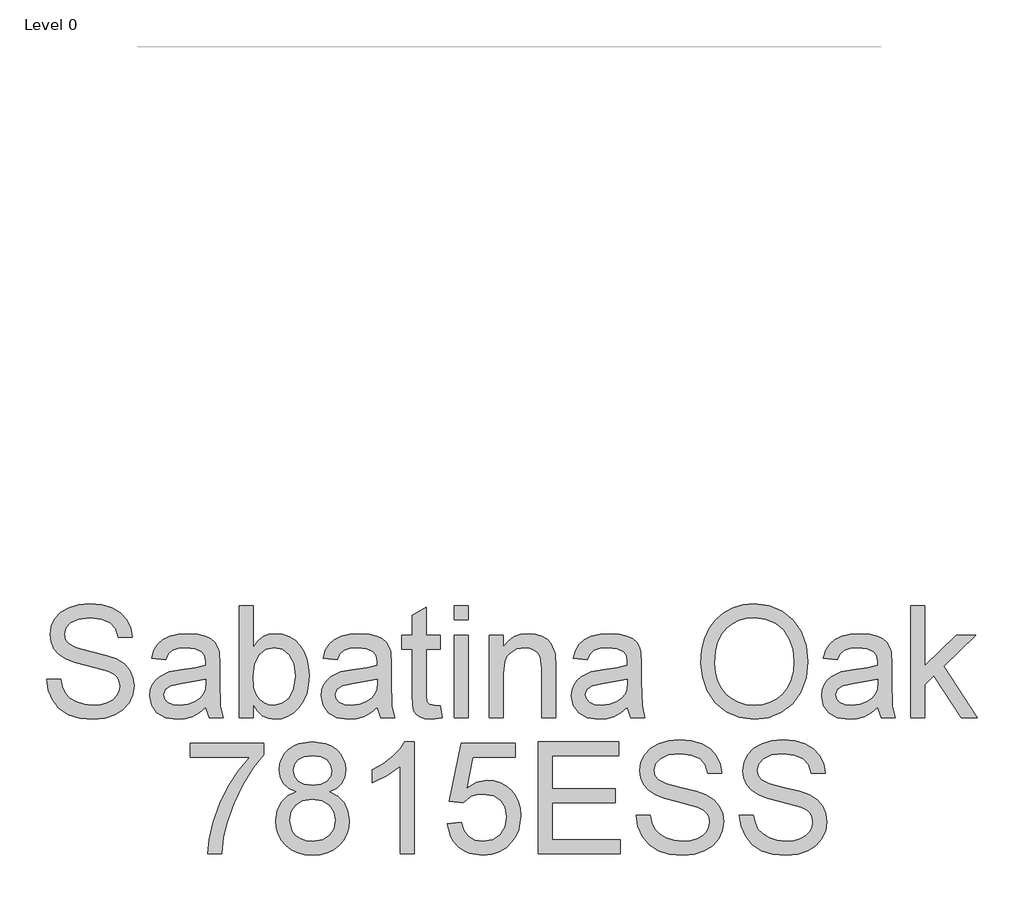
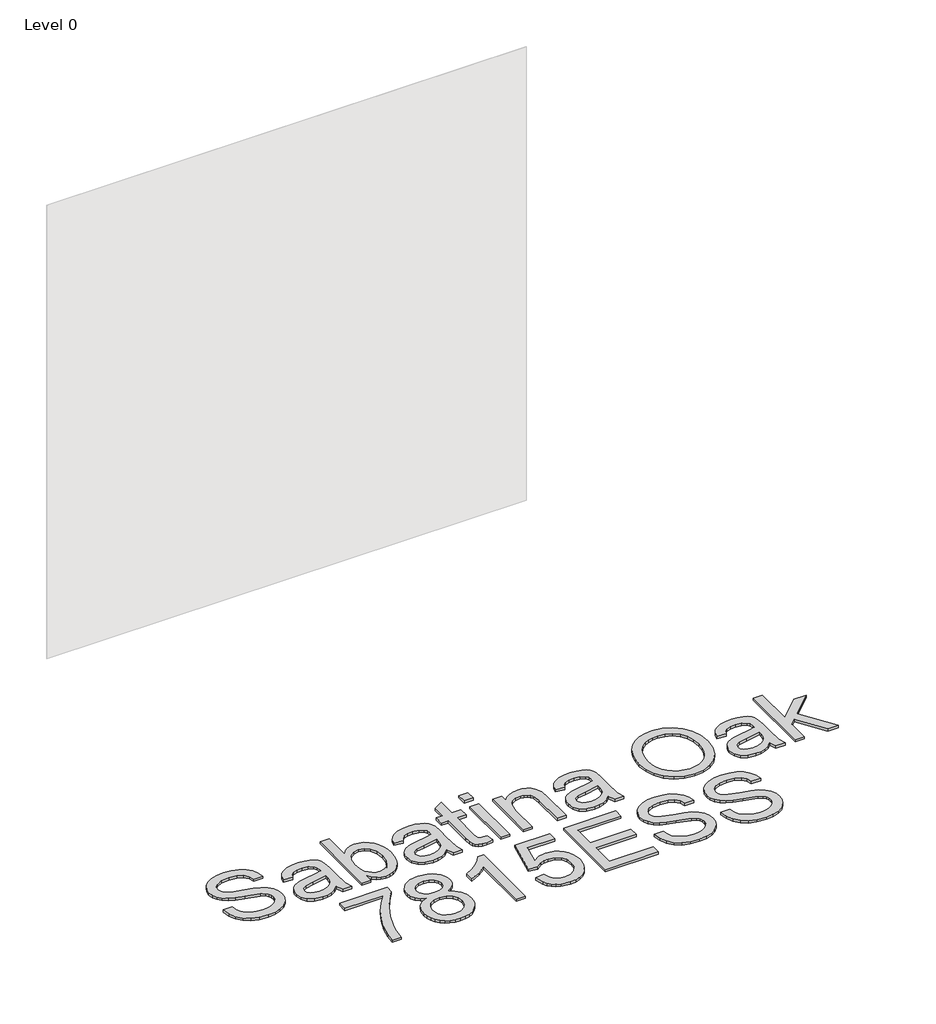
# One storey, part 33 of 43: 1 proxy.
"""IFC4 building model written with IfcOpenShell, lengths in millimetres."""

import ifcopenshell
import ifcopenshell.guid

model = None  # the IFC model being written
_history = None  # IfcOwnerHistory: only IFC2X3 demands one
_inside = {}  # id of a spatial element -> (the spatial element, [elements in it])
_under = {}  # id of a project, library or spatial element -> (it, [spatial elements below it])
_declared = {}  # id of a project -> (the project, [libraries it declares])
_typed = {}  # id of a type object -> (the type object, [elements of that type])
_made_of = {}  # id of a material, layer set ... -> (it, [elements and type objects made of it])


def new_model(schema):
    """Start an empty IFC model of exactly this schema.

    Asked for "IFC4X3", IfcOpenShell would pick the latest addendum, in which some entities
    have other attributes; the version numbers below select the first issue.
    IFC2X3 requires an IfcOwnerHistory on every rooted entity: one is made here for all.
    """
    global model, _history
    if schema == "IFC4X3":
        model = ifcopenshell.file(schema_version=(4, 3, 0, 0))
    else:
        model = ifcopenshell.file(schema=schema)
    _inside.clear()
    _under.clear()
    _declared.clear()
    _typed.clear()
    _made_of.clear()
    _history = None
    if model.schema == "IFC2X3":
        org = make("IfcOrganization", Name="unknown")
        user = make(
            "IfcPersonAndOrganization",
            ThePerson=make("IfcPerson", FamilyName="unknown"),
            TheOrganization=org,
        )
        app = make(
            "IfcApplication",
            ApplicationDeveloper=org,
            Version="unknown",
            ApplicationFullName="unknown",
            ApplicationIdentifier="unknown",
        )
        _history = make(
            "IfcOwnerHistory",
            OwningUser=user,
            OwningApplication=app,
            ChangeAction="ADDED",
            CreationDate=0,
        )
    return model


def make(cls, **values):
    """One entity of the class cls with the attributes given. An attribute that is None is left unset."""
    return model.create_entity(
        cls, **{name: value for name, value in values.items() if value is not None}
    )


def rooted(cls, **values):
    """An entity with a GlobalId (a new one), such as an element, a storey or a relation."""
    return make(cls, GlobalId=ifcopenshell.guid.new(), OwnerHistory=_history, **values)


def si_unit(unit_type, name, prefix=None):
    """IfcSIUnit, for example si_unit("LENGTHUNIT", "METRE", prefix="MILLI")."""
    return make("IfcSIUnit", UnitType=unit_type, Prefix=prefix, Name=name)


def assignment(units):
    """IfcUnitAssignment: the units of a project."""
    return None if units is None else make("IfcUnitAssignment", Units=units)


def point(xyz):
    """IfcCartesianPoint."""
    return None if xyz is None else make("IfcCartesianPoint", Coordinates=xyz)


def direction(xyz):
    """IfcDirection."""
    return None if xyz is None else make("IfcDirection", DirectionRatios=xyz)


def frame(location, z_axis=None, x_axis=None):
    """IfcAxis2Placement3D, a coordinate frame: its origin and axes. An axis left out is left unset."""
    return make(
        "IfcAxis2Placement3D",
        Location=point(location),
        Axis=direction(z_axis),
        RefDirection=direction(x_axis),
    )


def origin():
    """The frame at (0, 0, 0) with its axes left unset."""
    return frame((0.0, 0.0, 0.0))


def origin_with_axes():
    """The frame at (0, 0, 0) with the z axis (0, 0, 1) and the x axis (1, 0, 0) written out."""
    return frame((0.0, 0.0, 0.0), z_axis=(0.0, 0.0, 1.0), x_axis=(1.0, 0.0, 0.0))


def place(relative_to, where):
    """IfcLocalPlacement: puts the frame where relative to a parent placement (None: the world)."""
    return make(
        "IfcLocalPlacement", PlacementRelTo=relative_to, RelativePlacement=where
    )


def context(
    kind, dimensions, precision=None, world=None, true_north=None, identifier=None
):
    """IfcGeometricRepresentationContext, for example the 3D "Model" context."""
    return make(
        "IfcGeometricRepresentationContext",
        ContextIdentifier=identifier,
        ContextType=kind,
        CoordinateSpaceDimension=dimensions,
        Precision=precision,
        WorldCoordinateSystem=world,
        TrueNorth=true_north,
    )


def project(units=None, contexts=None):
    """IfcProject with its units and contexts."""
    return rooted(
        "IfcProject",
        Name="project",
        RepresentationContexts=contexts,
        UnitsInContext=assignment(units),
    )


def spatial(cls, under=None, at=None, **own):
    """A site, building, storey or space (cls), placed at a placement, below another one or the project."""
    s = rooted(cls, ObjectPlacement=at, **own)
    if under is not None:
        _under.setdefault(under.id(), (under, []))[1].append(s)
    return s


def polyline(points):
    """IfcPolyline through the points."""
    return make("IfcPolyline", Points=[point(p) for p in points])


def outline(outer, holes=None, kind="AREA"):
    """IfcArbitraryClosedProfileDef: a profile drawn as a closed curve; with holes, ...WithVoids."""
    if holes is None:
        return make("IfcArbitraryClosedProfileDef", ProfileType=kind, OuterCurve=outer)
    return make(
        "IfcArbitraryProfileDefWithVoids",
        ProfileType=kind,
        OuterCurve=outer,
        InnerCurves=holes,
    )


def extrude(swept, where, along, depth):
    """IfcExtrudedAreaSolid: the profile swept, set in the frame where, extruded along a direction by depth."""
    return make(
        "IfcExtrudedAreaSolid",
        SweptArea=swept,
        Position=where,
        ExtrudedDirection=direction(along),
        Depth=depth,
    )


def shape(context_of_items, identifier, shape_type, items):
    """IfcShapeRepresentation: the items that make up one representation, for example the "Body"."""
    return make(
        "IfcShapeRepresentation",
        ContextOfItems=context_of_items,
        RepresentationIdentifier=identifier,
        RepresentationType=shape_type,
        Items=items,
    )


def made_of(thing, what):
    """Note that an element or type object is made of a material, layer set ...; save() writes the relation."""
    if what is not None:
        _made_of.setdefault(what.id(), (what, []))[1].append(thing)
    return thing


def element(
    cls,
    number,
    at=None,
    inside=None,
    cuts=None,
    type_object=None,
    material=None,
    context=None,
    identifier="Body",
    shape_type=None,
    held_by="IfcProductDefinitionShape",
    body=None,
    shapes=None,
    **own,
):
    """One element of the class cls, such as IfcWall. Its Tag is "e" and its number.

    at: its placement. inside: the storey or other place that contains it. cuts: it is an
    opening in that element (IfcRelVoidsElement). A single representation is given by context,
    identifier, shape_type and body (its items); several are given by shapes. held_by: the class
    of the entity that holds the representations. save() writes the other relations.
    """
    e = rooted(cls, Tag="e%d" % number, ObjectPlacement=at, **own)
    if body is not None:
        shapes = [shape(context, identifier, shape_type, body)]
    if shapes is not None:
        e.Representation = make(held_by, Representations=shapes)
    if inside is not None:
        _inside.setdefault(inside.id(), (inside, []))[1].append(e)
    if cuts is not None:
        rooted(
            "IfcRelVoidsElement", RelatingBuildingElement=cuts, RelatedOpeningElement=e
        )
    if type_object is not None:
        _typed.setdefault(type_object.id(), (type_object, []))[1].append(e)
    return made_of(e, material)


def aggregate(whole, parts):
    """IfcRelAggregates: a whole, such as a stair, and the parts it consists of."""
    return rooted("IfcRelAggregates", RelatingObject=whole, RelatedObjects=parts)


def save(model, path):
    """Write the relations noted so far, then the file.

    IfcRelAggregates (storeys below a building ...), IfcRelContainedInSpatialStructure (elements
    in a storey), IfcRelDefinesByType, IfcRelAssociatesMaterial and IfcRelDeclares: one each for
    every whole, place, type object, material and project.
    """
    for whole, parts in _under.values():
        aggregate(whole, parts)
    for where, things in _inside.values():
        rooted(
            "IfcRelContainedInSpatialStructure",
            RelatedElements=things,
            RelatingStructure=where,
        )
    for kind, things in _typed.values():
        rooted("IfcRelDefinesByType", RelatedObjects=things, RelatingType=kind)
    for what, things in _made_of.values():
        rooted("IfcRelAssociatesMaterial", RelatedObjects=things, RelatingMaterial=what)
    for by, libraries in _declared.values():
        rooted("IfcRelDeclares", RelatingContext=by, RelatedDefinitions=libraries)
    model.write(path)


model = new_model("IFC4")

# Units and contexts
model_context = context("Model", 3, world=origin())
ifc_project = project(units=[si_unit("LENGTHUNIT", "METRE", prefix="MILLI")], contexts=[model_context])

# Site, building, storey
site = spatial("IfcSite", under=ifc_project)
building = spatial("IfcBuilding", under=site)
storey = spatial("IfcBuildingStorey", under=building, Name="Level 0", Elevation=0.0)

# Proxy
placement = place(None, origin())
element("IfcBuildingElementProxy", 1, Name="300mm Arial", ObjectType="300mm Arial", at=placement, inside=storey, context=model_context, shape_type="SweptSolid", body=[
    extrude(outline(polyline([(16303.8406608, -11898.2649241), (16341.5117771, -11898.2649241), (16345.8343906, -11919.1698185), (16353.651883, -11935.9728286), (16365.8471711, -11949.308551), (16383.3031718, -11959.8115819), (16404.6403275, -11966.6265959), (16428.4790808, -11968.8982672), (16449.4667486, -11967.1784189), (16467.8424543, -11962.0188739), (16482.732478, -11953.8518936), (16493.2631001, -11943.1097394), (16499.5262911, -11930.7764955), (16501.6140214, -11917.8362463), (16500.0505229, -11905.2270909), (16495.3600275, -11894.3285868), (16485.8318838, -11885.0303694), (16469.7554406, -11877.222074), (16414.9042352, -11862.837888), (16378.8977849, -11853.3189414), (16355.8591749, -11844.2598472), (16337.1063902, -11831.5863125), (16323.8166532, -11816.2272392), (16315.8979932, -11798.5137211), (16313.2584399, -11778.7768521), (16316.5233926, -11756.7131294), (16326.3182507, -11736.1393289), (16342.3854969, -11718.7017223), (16364.4676136, -11706.0465817), (16390.9735114, -11698.3486509), (16420.3121005, -11695.782674), (16452.0971049, -11698.4682126), (16479.9089837, -11706.5248283), (16502.7544556, -11719.7869742), (16519.6402392, -11738.0891034), (16530.3272112, -11760.2907818), (16534.5762482, -11785.2515752), (16496.9051319, -11785.2515752), (16489.9889504, -11762.7739853), (16475.5679762, -11746.5503893), (16453.035204, -11736.7279401), (16421.7836285, -11733.4537903), (16389.796289, -11736.6911519), (16367.852128, -11746.4032365), (16355.1601991, -11760.695452), (16350.9295562, -11777.6732061), (16353.9277945, -11792.1493626), (16362.9225092, -11803.7928278), (16384.1860886, -11814.2038882), (16424.4323788, -11824.8356779), (16465.9662561, -11834.9340387), (16491.0925964, -11843.7448125), (16512.5677078, -11857.4116286), (16527.5497021, -11874.2790181), (16536.3512788, -11894.1630399), (16539.2851377, -11916.8797531), (16535.9098204, -11940.102304), (16525.7838685, -11961.9452975), (16509.3211492, -11980.7440675), (16486.9355298, -11994.8339479), (16460.0157648, -12003.6355246), (16429.9506088, -12006.5693835), (16393.0428476, -12003.4055984), (16362.6649919, -11993.9142429), (16338.4675536, -11978.0585289), (16320.101045, -11955.8016682), (16308.3104271, -11928.6887651), (16303.8406608, -11898.2649241)])), origin_with_axes(), (0.0, 0.0, 1.0), 10.0),
    extrude(outline(polyline([(16732.3496088, -11973.6071568), (16714.3509822, -11989.0398064), (16695.8189267, -11999.1381672), (16676.330378, -12004.7115794), (16655.4622718, -12006.5693835), (16623.9807701, -12002.0996173), (16600.7582191, -11988.6903186), (16586.4384125, -11968.3280501), (16581.6651436, -11942.9993748), (16583.4677654, -11927.3827841), (16588.8756307, -11913.2009331), (16597.2173549, -11901.0608273), (16607.8215534, -11891.5694718), (16634.1986925, -11879.2086368), (16666.7930373, -11873.5432541), (16705.3102822, -11867.5835657), (16732.1288796, -11860.5938078), (16732.3496088, -11852.2060983), (16729.7560407, -11835.3938912), (16721.9753365, -11824.3942195), (16704.5745182, -11816.2272392), (16680.3310947, -11813.5049125), (16657.890293, -11815.3167313), (16642.21852, -11820.7521878), (16631.531548, -11830.8045633), (16624.0451494, -11846.4671392), (16586.3740331, -11841.7582497), (16592.9131356, -11821.156858), (16602.6712055, -11804.9700502), (16616.5587508, -11792.590821), (16635.4862795, -11783.4121652), (16658.635254, -11777.7283884), (16685.187137, -11775.8337961), (16710.6537681, -11777.5076592), (16730.8412926, -11782.5292485), (16746.0624102, -11790.0800264), (16756.6298205, -11799.3414556), (16763.6379725, -11810.7917827), (16768.1813151, -11824.9092543), (16770.0207251, -11857.8714811), (16770.0207251, -11904.7396473), (16771.9337115, -11970.1858542), (16779.4385042, -12001.860494), (16741.7673879, -12001.860494), (16732.3496088, -11973.6071568)]), holes=[polyline([(16732.3496088, -11898.2649241), (16671.5755032, -11909.8164188), (16639.1650994, -11915.9232599), (16624.4866078, -11925.8560738), (16619.3362599, -11940.3506244), (16622.1413601, -11951.5526311), (16630.5566607, -11960.7312869), (16644.3982208, -11966.8565221), (16663.4820993, -11968.8982672), (16683.715609, -11966.64499), (16701.594674, -11959.8851583), (16716.0892246, -11949.9247533), (16726.1691913, -11938.069756), (16730.6389575, -11925.8560738), (16732.1288796, -11908.933502), (16732.3496088, -11898.2649241)])]), origin_with_axes(), (0.0, 0.0, 1.0), 10.0),
    extrude(outline(polyline([(16859.4896263, -12001.860494), (16821.81851, -12001.860494), (16821.81851, -11700.4915635), (16859.4896263, -11700.4915635), (16859.4896263, -11812.2541137), (16871.8780525, -11796.3202248), (16885.8667654, -11784.9388755), (16901.4557649, -11778.110066), (16918.6450512, -11775.8337961), (16938.0508264, -11777.8847383), (16956.3897439, -11784.0375646), (16972.6133399, -11793.9059992), (16985.6731507, -11807.1037657), (16995.9094672, -11823.5021057), (17003.6625802, -11842.9722603), (17008.5462137, -11864.7048891), (17010.1740916, -11887.8906519), (17008.4887322, -11914.64487), (17003.432654, -11938.1801206), (16995.005857, -11958.4964038), (16983.2083413, -11975.5937195), (16969.0471838, -11989.1455725), (16953.5294614, -11998.8254675), (16936.6551741, -12004.6334045), (16918.424322, -12006.5693835), (16900.6694172, -12004.0723845), (16884.9286663, -11996.5813874), (16871.2020694, -11984.0963921), (16859.4896263, -11966.6173988), (16859.4896263, -12001.860494)]), holes=[polyline([(16859.4896263, -11889.6564855), (16862.0648003, -11921.0736078), (16869.7903222, -11942.3371872), (16878.9183942, -11953.9576597), (16889.5271912, -11962.2579972), (16901.6167133, -11967.2381997), (16915.1869604, -11968.8982672), (16936.9287863, -11964.0054367), (16955.5068271, -11949.3269451), (16968.2539382, -11924.9547629), (16972.5029753, -11890.9808606), (16968.4286822, -11856.5103177), (16956.2058029, -11832.414047), (16938.2071763, -11818.2321961), (16916.8056412, -11813.5049125), (16895.0638153, -11818.397743), (16876.4857745, -11833.0762346), (16863.7386634, -11857.0069584), (16859.4896263, -11889.6564855)])]), origin_with_axes(), (0.0, 0.0, 1.0), 10.0),
    extrude(outline(polyline([(17193.8207836, -11973.6071568), (17175.8221569, -11989.0398064), (17157.2901014, -11999.1381672), (17137.8015527, -12004.7115794), (17116.9334466, -12006.5693835), (17085.4519448, -12002.0996173), (17062.2293939, -11988.6903186), (17047.9095872, -11968.3280501), (17043.1363183, -11942.9993748), (17044.9389401, -11927.3827841), (17050.3468054, -11913.2009331), (17058.6885297, -11901.0608273), (17069.2927282, -11891.5694718), (17095.6698672, -11879.2086368), (17128.264212, -11873.5432541), (17166.7814569, -11867.5835657), (17193.6000544, -11860.5938078), (17193.8207836, -11852.2060983), (17191.2272155, -11835.3938912), (17183.4465113, -11824.3942195), (17166.0456929, -11816.2272392), (17141.8022694, -11813.5049125), (17119.3614677, -11815.3167313), (17103.6896947, -11820.7521878), (17093.0027228, -11830.8045633), (17085.5163242, -11846.4671392), (17047.8452079, -11841.7582497), (17054.3843103, -11821.156858), (17064.1423803, -11804.9700502), (17078.0299256, -11792.590821), (17096.9574542, -11783.4121652), (17120.1064288, -11777.7283884), (17146.6583118, -11775.8337961), (17172.1249429, -11777.5076592), (17192.3124674, -11782.5292485), (17207.5335849, -11790.0800264), (17218.1009952, -11799.3414556), (17225.1091472, -11810.7917827), (17229.6524899, -11824.9092543), (17231.4918999, -11857.8714811), (17231.4918999, -11904.7396473), (17233.4048862, -11970.1858542), (17240.9096789, -12001.860494), (17203.2385626, -12001.860494), (17193.8207836, -11973.6071568)]), holes=[polyline([(17193.8207836, -11898.2649241), (17133.046678, -11909.8164188), (17100.6362742, -11915.9232599), (17085.9577826, -11925.8560738), (17080.8074346, -11940.3506244), (17083.6125348, -11951.5526311), (17092.0278355, -11960.7312869), (17105.8693956, -11966.8565221), (17124.9532741, -11968.8982672), (17145.1867838, -11966.64499), (17163.0658488, -11959.8851583), (17177.5603994, -11949.9247533), (17187.640366, -11938.069756), (17192.1101323, -11925.8560738), (17193.6000544, -11908.933502), (17193.8207836, -11898.2649241)])]), origin_with_axes(), (0.0, 0.0, 1.0), 10.0),
    extrude(outline(polyline([(17363.3408069, -11970.4433716), (17368.0496965, -12002.96414), (17339.8699356, -12006.5693835), (17321.7885356, -12005.005885), (17308.3056605, -12000.3153896), (17298.7775168, -11993.0865084), (17292.5603111, -11983.9078526), (17289.1390085, -11968.1441091), (17287.9985743, -11941.1599648), (17287.9985743, -11818.213802), (17259.7452371, -11818.213802), (17259.7452371, -11780.5426857), (17287.9985743, -11780.5426857), (17287.9985743, -11726.758338), (17325.6696906, -11704.6118419), (17325.6696906, -11780.5426857), (17363.3408069, -11780.5426857), (17363.3408069, -11818.213802), (17325.6696906, -11818.213802), (17325.6696906, -11940.0563188), (17327.6562534, -11959.4804881), (17334.0941883, -11966.3598814), (17346.9332699, -11968.8982672), (17363.3408069, -11970.4433716)])), origin_with_axes(), (0.0, 0.0, 1.0), 10.0),
    extrude(outline(polyline([(17401.0119232, -11738.1626798), (17401.0119232, -11700.4915635), (17438.6830395, -11700.4915635), (17438.6830395, -11738.1626798), (17401.0119232, -11738.1626798)])), origin_with_axes(), (0.0, 0.0, 1.0), 10.0),
    extrude(outline(polyline([(17401.0119232, -12001.860494), (17401.0119232, -11780.5426857), (17438.6830395, -11780.5426857), (17438.6830395, -12001.860494), (17401.0119232, -12001.860494)])), origin_with_axes(), (0.0, 0.0, 1.0), 10.0),
    extrude(outline(polyline([(17495.189714, -12001.860494), (17495.189714, -11780.5426857), (17532.8608303, -11780.5426857), (17532.8608303, -11811.4447733), (17545.9482323, -11795.8649708), (17561.6659905, -11784.7365404), (17580.014105, -11778.0594822), (17600.9925758, -11775.8337961), (17619.5614195, -11777.6272209), (17636.5667647, -11783.0074951), (17650.7486157, -11791.303234), (17660.8469764, -11801.8430532), (17672.1409537, -11829.5445674), (17674.1275165, -11865.964885), (17674.1275165, -12001.860494), (17636.4564002, -12001.860494), (17636.4564002, -11871.0416565), (17632.1153926, -11837.7115477), (17626.109719, -11827.7879309), (17616.7747134, -11820.0900002), (17604.8093515, -11815.1511844), (17590.9126091, -11813.5049125), (17568.8488865, -11817.2021265), (17550.0409195, -11828.2937687), (17542.5246305, -11837.3482643), (17537.1558526, -11849.7228949), (17532.8608303, -11884.4325611), (17532.8608303, -12001.860494), (17495.189714, -12001.860494)])), origin_with_axes(), (0.0, 0.0, 1.0), 10.0),
    extrude(outline(polyline([(17867.1919875, -11973.6071568), (17849.1933609, -11989.0398064), (17830.6613054, -11999.1381672), (17811.1727567, -12004.7115794), (17790.3046505, -12006.5693835), (17758.8231488, -12002.0996173), (17735.6005979, -11988.6903186), (17721.2807912, -11968.3280501), (17716.5075223, -11942.9993748), (17718.3101441, -11927.3827841), (17723.7180094, -11913.2009331), (17732.0597336, -11901.0608273), (17742.6639322, -11891.5694718), (17769.0410712, -11879.2086368), (17801.635416, -11873.5432541), (17840.1526609, -11867.5835657), (17866.9712583, -11860.5938078), (17867.1919875, -11852.2060983), (17864.5984195, -11835.3938912), (17856.8177153, -11824.3942195), (17839.4168969, -11816.2272392), (17815.1734734, -11813.5049125), (17792.7326717, -11815.3167313), (17777.0608987, -11820.7521878), (17766.3739267, -11830.8045633), (17758.8875281, -11846.4671392), (17721.2164118, -11841.7582497), (17727.7555143, -11821.156858), (17737.5135842, -11804.9700502), (17751.4011295, -11792.590821), (17770.3286582, -11783.4121652), (17793.4776327, -11777.7283884), (17820.0295157, -11775.8337961), (17845.4961469, -11777.5076592), (17865.6836713, -11782.5292485), (17880.9047889, -11790.0800264), (17891.4721992, -11799.3414556), (17898.4803512, -11810.7917827), (17903.0236939, -11824.9092543), (17904.8631038, -11857.8714811), (17904.8631038, -11904.7396473), (17906.7760902, -11970.1858542), (17914.2808829, -12001.860494), (17876.6097666, -12001.860494), (17867.1919875, -11973.6071568)]), holes=[polyline([(17867.1919875, -11898.2649241), (17806.4178819, -11909.8164188), (17774.0074781, -11915.9232599), (17759.3289865, -11925.8560738), (17754.1786386, -11940.3506244), (17756.9837388, -11951.5526311), (17765.3990395, -11960.7312869), (17779.2405995, -11966.8565221), (17798.324478, -11968.8982672), (17818.5579878, -11966.64499), (17836.4370527, -11959.8851583), (17850.9316033, -11949.9247533), (17861.01157, -11938.069756), (17865.4813362, -11925.8560738), (17866.9712583, -11908.933502), (17867.1919875, -11898.2649241)])]), origin_with_axes(), (0.0, 0.0, 1.0), 10.0),
    extrude(outline(polyline([(18064.9653481, -11855.1491543), (18067.4761427, -11819.8002931), (18075.0085266, -11788.5073309), (18087.5624997, -11761.2702677), (18105.138062, -11738.0891034), (18126.6821513, -11719.5800406), (18151.1417055, -11706.3592814), (18178.5167245, -11698.4268258), (18208.8072082, -11695.782674), (18248.3361286, -11700.7490809), (18283.7815589, -11715.6483017), (18313.2121185, -11739.4318727), (18334.696427, -11771.0513302), (18347.8298142, -11808.9799639), (18352.20761, -11851.6910636), (18347.599888, -11894.9723803), (18333.776722, -11933.4344429), (18311.5014672, -11965.1090827), (18281.5374787, -11988.028131), (18246.3955511, -12001.9340704), (18208.586479, -12006.5693835), (18168.4505534, -12001.4466267), (18132.802788, -11986.0783564), (18103.4458048, -11961.853327), (18082.1822255, -11930.1602931), (18069.2695675, -11893.6939903), (18064.9653481, -11855.1491543)]), holes=[polyline([(18102.6364644, -11855.5170363), (18104.5195604, -11880.4916252), (18110.1688483, -11902.661114), (18119.5843281, -11922.0255025), (18132.7659998, -11938.5847908), (18148.78956, -11951.8469367), (18166.730705, -11961.3198981), (18186.589435, -11967.0036749), (18208.3657499, -11968.8982672), (18230.5145452, -11966.9852808), (18250.6077999, -11961.2463217), (18268.645514, -11951.6813898), (18284.6276875, -11938.2904852), (18297.7127902, -11921.381709), (18307.0592921, -11901.2631624), (18312.6671933, -11877.9348454), (18314.5364937, -11851.396758), (18311.3359203, -11818.0482551), (18301.7342002, -11789.2247008), (18285.9796538, -11765.6526619), (18264.3206013, -11748.0587055), (18238.1917826, -11737.1050191), (18209.0279374, -11733.4537903), (18188.0080799, -11735.2127261), (18168.5057357, -11740.4895335), (18150.5209046, -11749.2842124), (18134.0535868, -11761.5967629), (18120.3085958, -11778.0203948), (18110.490745, -11799.1483176), (18104.6000346, -11824.9805314), (18102.6364644, -11855.5170363)])]), origin_with_axes(), (0.0, 0.0, 1.0), 10.0),
    extrude(outline(polyline([(18540.5631915, -11973.6071568), (18522.5645649, -11989.0398064), (18504.0325094, -11999.1381672), (18484.5439607, -12004.7115794), (18463.6758545, -12006.5693835), (18432.1943528, -12002.0996173), (18408.9718018, -11988.6903186), (18394.6519952, -11968.3280501), (18389.8787263, -11942.9993748), (18391.681348, -11927.3827841), (18397.0892134, -11913.2009331), (18405.4309376, -11901.0608273), (18416.0351361, -11891.5694718), (18442.4122752, -11879.2086368), (18475.00662, -11873.5432541), (18513.5238649, -11867.5835657), (18540.3424623, -11860.5938078), (18540.5631915, -11852.2060983), (18537.9696234, -11835.3938912), (18530.1889192, -11824.3942195), (18512.7881009, -11816.2272392), (18488.5446774, -11813.5049125), (18466.1038757, -11815.3167313), (18450.4321027, -11820.7521878), (18439.7451307, -11830.8045633), (18432.2587321, -11846.4671392), (18394.5876158, -11841.7582497), (18401.1267183, -11821.156858), (18410.8847882, -11804.9700502), (18424.7723335, -11792.590821), (18443.6998622, -11783.4121652), (18466.8488367, -11777.7283884), (18493.4007197, -11775.8337961), (18518.8673508, -11777.5076592), (18539.0548753, -11782.5292485), (18554.2759929, -11790.0800264), (18564.8434032, -11799.3414556), (18571.8515552, -11810.7917827), (18576.3948978, -11824.9092543), (18578.2343078, -11857.8714811), (18578.2343078, -11904.7396473), (18580.1472942, -11970.1858542), (18587.6520869, -12001.860494), (18549.9809706, -12001.860494), (18540.5631915, -11973.6071568)]), holes=[polyline([(18540.5631915, -11898.2649241), (18479.7890859, -11909.8164188), (18447.3786821, -11915.9232599), (18432.7001905, -11925.8560738), (18427.5498426, -11940.3506244), (18430.3549428, -11951.5526311), (18438.7702434, -11960.7312869), (18452.6118035, -11966.8565221), (18471.695682, -11968.8982672), (18491.9291917, -11966.64499), (18509.8082567, -11959.8851583), (18524.3028073, -11949.9247533), (18534.382774, -11938.069756), (18538.8525402, -11925.8560738), (18540.3424623, -11908.933502), (18540.5631915, -11898.2649241)])]), origin_with_axes(), (0.0, 0.0, 1.0), 10.0),
    extrude(outline(polyline([(18630.0320927, -12001.860494), (18630.0320927, -11700.4915635), (18667.703209, -11700.4915635), (18667.703209, -11862.4332178), (18752.1689151, -11780.5426857), (18804.2610056, -11780.5426857), (18718.76523, -11863.4632874), (18808.9698952, -12001.860494), (18764.9712086, -12001.860494), (18691.7626915, -11889.6564855), (18667.703209, -11912.9802039), (18667.703209, -12001.860494), (18630.0320927, -12001.860494)])), origin_with_axes(), (0.0, 0.0, 1.0), 10.0),
    extrude(outline(polyline([(16689.969603, -12108.7960229), (16689.969603, -12071.1249066), (16887.7429636, -12071.1249066), (16887.7429636, -12101.5855358), (16859.5540057, -12137.2608923), (16831.6409593, -12182.6299393), (16807.0204568, -12233.5540045), (16788.7091305, -12285.8944154), (16779.7328098, -12325.0554538), (16774.7296146, -12367.7849475), (16737.0584983, -12367.7849475), (16741.1327914, -12328.9550029), (16752.0312955, -12282.8042066), (16769.4597051, -12233.8850983), (16793.1237144, -12186.7502177), (16820.7516522, -12144.1402856), (16850.0718473, -12108.7960229), (16689.969603, -12108.7960229)])), origin_with_axes(), (0.0, 0.0, 1.0), 10.0),
    extrude(outline(polyline([(16975.593184, -12201.7965913), (16955.4240536, -12191.8637774), (16941.2697939, -12178.3992964), (16932.9096755, -12161.6790597), (16930.1229694, -12141.9789789), (16931.6404826, -12126.6153071), (16936.1930223, -12112.5300252), (16943.7805885, -12099.7231332), (16954.4031811, -12088.1946312), (16967.5503639, -12078.6664875), (16982.7117006, -12071.8606706), (17019.0768358, -12066.4160171), (17055.6627003, -12071.9894293), (17070.9895839, -12078.9561946), (17084.3391018, -12088.709666), (17095.1548324, -12100.4634957), (17102.8803543, -12113.4313361), (17107.5156675, -12127.613187), (17109.0607719, -12143.0090485), (17106.310854, -12162.0745329), (17098.0611002, -12178.509661), (17084.2195401, -12191.8913686), (17064.6942032, -12201.7965913), (17087.879966, -12213.7435591), (17104.7565525, -12231.3375155), (17115.0480513, -12253.732332), (17118.4785509, -12280.0818799), (17116.7770967, -12298.8714528), (17111.672734, -12316.0975272), (17103.1654629, -12331.7601031), (17091.2552833, -12345.8591806), (17076.5675946, -12357.5118428), (17059.7277963, -12365.8351729), (17040.7358883, -12370.829171), (17019.5918706, -12372.4938371), (16998.447853, -12370.8222732), (16979.455945, -12365.8075818), (16962.6161466, -12357.4497627), (16947.928458, -12345.748816), (16936.0182784, -12331.5508703), (16927.5110072, -12315.7020541), (16922.4066446, -12298.2023674), (16920.7051903, -12279.0518103), (16924.2736457, -12251.6813898), (16934.9790117, -12229.1670117), (16952.2694655, -12212.2812282), (16975.593184, -12201.7965913)]), holes=[polyline([(16967.7940857, -12143.0826249), (16971.1326148, -12159.52695), (16981.1482021, -12172.6603373), (16997.5465421, -12181.268776), (17020.033329, -12184.1382555), (17041.9958841, -12181.2871701), (17058.1459037, -12172.7339137), (17068.0787176, -12160.0419848), (17071.3896556, -12144.774882), (17067.968353, -12128.9283651), (17057.7044453, -12115.822569), (17041.3336966, -12107.0209923), (17019.5918706, -12104.0871334), (16997.712089, -12106.9566129), (16981.3689313, -12115.5650516), (16971.1877971, -12128.1834041), (16967.7940857, -12143.0826249)]), polyline([(16958.3763066, -12277.7274351), (16964.6670888, -12306.0911369), (16973.376695, -12318.2588339), (16986.9239495, -12327.317928), (17003.1475455, -12332.9465226), (17019.8861762, -12334.8227207), (17045.5275513, -12330.8771864), (17064.7677796, -12319.0405832), (17076.7975209, -12301.1155329), (17080.8074346, -12278.9046575), (17076.6687622, -12256.316703), (17064.2527449, -12237.9961796), (17044.5710581, -12225.8560738), (17018.6353775, -12221.8093718), (16993.3526873, -12225.8008915), (16974.305597, -12237.7754504), (16962.3586292, -12255.7464859), (16958.3763066, -12277.7274351)])]), origin_with_axes(), (0.0, 0.0, 1.0), 10.0),
    extrude(outline(polyline([(17292.7074639, -12367.7849475), (17255.0363476, -12367.7849475), (17255.0363476, -12132.9290818), (17219.351794, -12158.3497277), (17179.6941149, -12177.3692268), (17179.6941149, -12141.7582497), (17209.2810244, -12125.6634124), (17234.9132024, -12106.5151545), (17255.119121, -12086.1528861), (17268.4272522, -12066.4160171), (17292.7074639, -12066.4160171), (17292.7074639, -12367.7849475)])), origin_with_axes(), (0.0, 0.0, 1.0), 10.0),
    extrude(outline(polyline([(17382.1763651, -12287.7338254), (17419.8474814, -12283.0249358), (17426.7636629, -12305.6404815), (17438.8301923, -12321.8364863), (17455.9918874, -12331.5761621), (17478.1935658, -12334.8227207), (17505.1961043, -12330.3069693), (17525.429614, -12316.7597148), (17538.0663605, -12295.7444558), (17542.2786094, -12268.8246908), (17538.333075, -12243.4776213), (17526.4964718, -12224.0902402), (17506.6768293, -12211.7845875), (17478.782177, -12207.6827032), (17460.5076389, -12209.3197781), (17445.7095857, -12214.2310027), (17424.5563709, -12231.2271509), (17386.8852546, -12226.5182614), (17419.8474814, -12071.1249066), (17565.8230571, -12071.1249066), (17565.8230571, -12108.7960229), (17450.3081106, -12108.7960229), (17434.1948792, -12191.790201), (17461.1054471, -12175.4562404), (17489.3036021, -12170.0115869), (17507.6494173, -12171.6992456), (17524.500712, -12176.7622215), (17539.857486, -12185.2005148), (17553.7197394, -12197.0141254), (17565.1953584, -12211.4810848), (17573.3922291, -12227.8794248), (17578.3103516, -12246.2091452), (17579.9497257, -12266.470246), (17574.0452197, -12304.1413624), (17566.6645871, -12320.9351754), (17556.3317016, -12336.3678251), (17540.6783227, -12352.1729553), (17522.4129816, -12363.4623341), (17501.5356784, -12370.2359613), (17478.046413, -12372.4938371), (17441.0466814, -12366.6904986), (17425.3680106, -12359.4363255), (17411.5701365, -12349.2804832), (17400.089919, -12336.7288093), (17391.3642179, -12322.2871418), (17382.1763651, -12287.7338254)])), origin_with_axes(), (0.0, 0.0, 1.0), 10.0),
    extrude(outline(polyline([(17627.0386211, -12367.7849475), (17627.0386211, -12066.4160171), (17843.6475398, -12066.4160171), (17843.6475398, -12104.0871334), (17664.7097374, -12104.0871334), (17664.7097374, -12193.5560346), (17834.2297608, -12193.5560346), (17834.2297608, -12231.2271509), (17664.7097374, -12231.2271509), (17664.7097374, -12330.1138312), (17848.3564294, -12330.1138312), (17848.3564294, -12367.7849475), (17627.0386211, -12367.7849475)])), origin_with_axes(), (0.0, 0.0, 1.0), 10.0),
    extrude(outline(polyline([(17890.7364352, -12264.1893777), (17928.4075515, -12264.1893777), (17932.730165, -12285.0942721), (17940.5476574, -12301.8972822), (17952.7429455, -12315.2330045), (17970.1989462, -12325.7360355), (17991.5361019, -12332.5510494), (18015.3748552, -12334.8227207), (18036.362523, -12333.1028724), (18054.7382287, -12327.9433274), (18069.6282524, -12319.7763471), (18080.1588745, -12309.0341929), (18086.4220655, -12296.700949), (18088.5097958, -12283.7606998), (18086.9462973, -12271.1515444), (18082.2558019, -12260.2530403), (18072.7276582, -12250.9548229), (18056.651215, -12243.1465276), (18001.8000096, -12228.7623415), (17965.7935593, -12219.2433949), (17942.7549493, -12210.1843008), (17924.0021646, -12197.510766), (17910.7124276, -12182.1516928), (17902.7937676, -12164.4381747), (17900.1542143, -12144.7013056), (17903.419167, -12122.637583), (17913.2140251, -12102.0637824), (17929.2812713, -12084.6261758), (17951.363388, -12071.9710352), (17977.8692858, -12064.2731044), (18007.2078749, -12061.7071275), (18038.9928793, -12064.3926661), (18066.8047581, -12072.4492818), (18089.65023, -12085.7114277), (18106.5360136, -12104.013557), (18117.2229855, -12126.2152354), (18121.4720226, -12151.1760288), (18083.8009063, -12151.1760288), (18076.8847248, -12128.6984389), (18062.4637506, -12112.4748429), (18039.9309784, -12102.6523936), (18008.6794029, -12099.3782438), (17976.6920634, -12102.6156054), (17954.7479024, -12112.3276901), (17942.0559735, -12126.6199056), (17937.8253306, -12143.5976597), (17940.8235689, -12158.0738162), (17949.8182836, -12169.7172813), (17971.081863, -12180.1283418), (18011.3281532, -12190.7601314), (18052.8620305, -12200.8584922), (18077.9883708, -12209.669266), (18099.4634822, -12223.3360821), (18114.4454765, -12240.2034716), (18123.2470532, -12260.0874934), (18126.1809121, -12282.8042066), (18122.8055948, -12306.0267576), (18112.6796429, -12327.869751), (18096.2169236, -12346.668521), (18073.8313042, -12360.7584014), (18046.9115392, -12369.5599781), (18016.8463832, -12372.4938371), (17979.938622, -12369.3300519), (17949.5607662, -12359.8386964), (17925.363328, -12343.9829824), (17906.9968194, -12321.7261217), (17895.2062015, -12294.6132187), (17890.7364352, -12264.1893777)])), origin_with_axes(), (0.0, 0.0, 1.0), 10.0),
    extrude(outline(polyline([(18168.560918, -12264.1893777), (18206.2320343, -12264.1893777), (18210.5546477, -12285.0942721), (18218.3721401, -12301.8972822), (18230.5674283, -12315.2330045), (18248.0234289, -12325.7360355), (18269.3605847, -12332.5510494), (18293.1993379, -12334.8227207), (18314.1870058, -12333.1028724), (18332.5627114, -12327.9433274), (18347.4527352, -12319.7763471), (18357.9833573, -12309.0341929), (18364.2465483, -12296.700949), (18366.3342786, -12283.7606998), (18364.7707801, -12271.1515444), (18360.0802847, -12260.2530403), (18350.552141, -12250.9548229), (18334.4756978, -12243.1465276), (18279.6244923, -12228.7623415), (18243.618042, -12219.2433949), (18220.5794321, -12210.1843008), (18201.8266474, -12197.510766), (18188.5369103, -12182.1516928), (18180.6182504, -12164.4381747), (18177.9786971, -12144.7013056), (18181.2436498, -12122.637583), (18191.0385079, -12102.0637824), (18207.105754, -12084.6261758), (18229.1878708, -12071.9710352), (18255.6937685, -12064.2731044), (18285.0323576, -12061.7071275), (18316.817362, -12064.3926661), (18344.6292409, -12072.4492818), (18367.4747128, -12085.7114277), (18384.3604963, -12104.013557), (18395.0474683, -12126.2152354), (18399.2965053, -12151.1760288), (18361.625389, -12151.1760288), (18354.7092075, -12128.6984389), (18340.2882333, -12112.4748429), (18317.7554611, -12102.6523936), (18286.5038856, -12099.3782438), (18254.5165461, -12102.6156054), (18232.5723851, -12112.3276901), (18219.8804563, -12126.6199056), (18215.6498134, -12143.5976597), (18218.6480516, -12158.0738162), (18227.6427664, -12169.7172813), (18248.9063457, -12180.1283418), (18289.152636, -12190.7601314), (18330.6865132, -12200.8584922), (18355.8128535, -12209.669266), (18377.287965, -12223.3360821), (18392.2699592, -12240.2034716), (18401.071536, -12260.0874934), (18404.0053949, -12282.8042066), (18400.6300776, -12306.0267576), (18390.5041257, -12327.869751), (18374.0414064, -12346.668521), (18351.655787, -12360.7584014), (18324.736022, -12369.5599781), (18294.6708659, -12372.4938371), (18257.7631048, -12369.3300519), (18227.385249, -12359.8386964), (18203.1878108, -12343.9829824), (18184.8213022, -12321.7261217), (18173.0306842, -12294.6132187), (18168.560918, -12264.1893777)])), origin_with_axes(), (0.0, 0.0, 1.0), 10.0),
])

save(model, "model.ifc")
